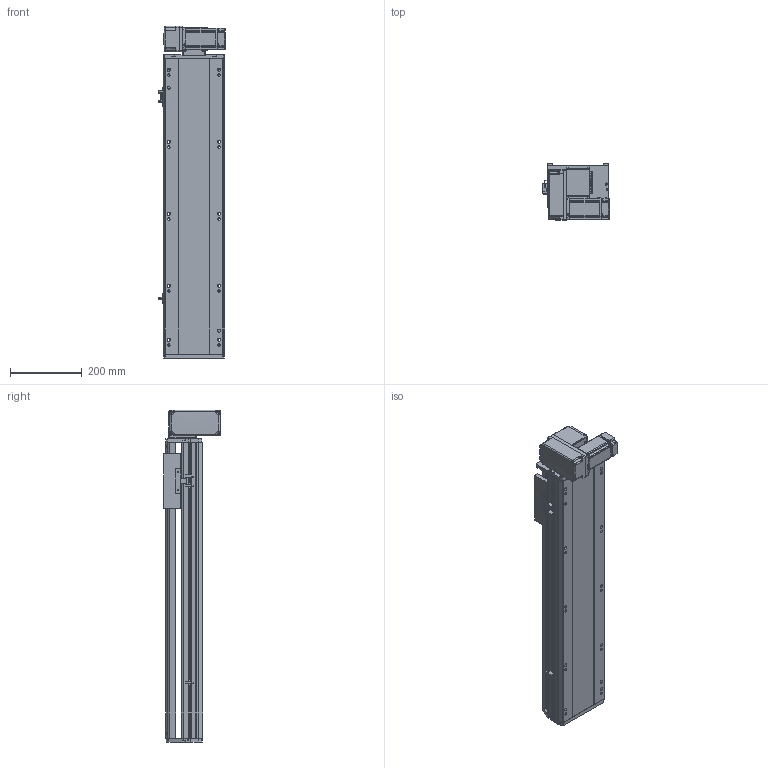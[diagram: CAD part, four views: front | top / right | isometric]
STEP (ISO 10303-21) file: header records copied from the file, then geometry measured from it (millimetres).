
FILE_DESCRIPTION (( 'STEP AP214' ), '1' );
FILE_NAME ('RTB17S-XX-550-LM-M40-C4.STEP', '2025-12-11T06:23:11', ( '' ), ( '' ), 'SwSTEP 2.0', 'SolidWorks 2018', '' );
FILE_SCHEMA (( 'AUTOMOTIVE_DESIGN' ));
Length unit declared in the file: millimetre
Products named in the file (14): RTB17-R-011菁釱^RTB17S-XX-XX-LM-M40-C4; RTB14-L-017P^RTB17S-LM-々湍釱蚾饜-400W_RTB17S-XX-XX-LM-M40-C4; RTB14-L-008-M20--萇儂啣^RTB17S-LM-々湍釱蚾饜-400W_RTB17S-XX-XX-LM-M40-C4; RTB17S-L-001耜醱啣^RTB17S-XX-XX-LM-M40-C4; RTB17S-LM-々湍釱蚾饜-400W^RTB17S-XX-XX-LM-M40-C4; RTB14-L-018P^RTB17S-LM-々湍釱蚾饜-400W_RTB17S-XX-XX-LM-M40-C4; RTB14-L-005P--轴承塑胶压盖^RTB17S-LM-皮带座装配-400W_RTB17S-XX-XX-LM-M40-C4; OMRON EE-SX672 传感器^RTB17S-XX-XX-LM-M40-C4; RMP17S-L-014-T20--々湍釱^RTB17S-LM-々湍釱蚾饜-400W_RTB17S-XX-XX-LM-M40-C4; RTB17S-L-004佪裝蹟譫蟀諉釱^RTB17S-XX-XX-LM-M40-C4; 400W侜督萇儂^RTB17S-XX-XX-LM-M40-C4; RTB17S-XX-550-LM-M40-C4; RTH13-BL-012覜茼え俋离^RTB17S-XX-XX-LM-M40-C4; RTB17S-L-007奻裔^RTB17S-XX-XX-LM-M40-C4
Assembly tree (16 placements, depth 3):
  RTB17S-XX-550-LM-M40-C4
    RTB17-R-011菁釱^RTB17S-XX-XX-LM-M40-C4
    RTB17S-L-007奻裔^RTB17S-XX-XX-LM-M40-C4
    OMRON EE-SX672 传感器^RTB17S-XX-XX-LM-M40-C4  x3
    RTH13-BL-012覜茼え俋离^RTB17S-XX-XX-LM-M40-C4
    RTB17S-L-001耜醱啣^RTB17S-XX-XX-LM-M40-C4
    400W侜督萇儂^RTB17S-XX-XX-LM-M40-C4
    RTB17S-L-004佪裝蹟譫蟀諉釱^RTB17S-XX-XX-LM-M40-C4
    RTB17S-LM-々湍釱蚾饜-400W^RTB17S-XX-XX-LM-M40-C4
      RMP17S-L-014-T20--々湍釱^RTB17S-LM-々湍釱蚾饜-400W_RTB17S-XX-XX-LM-M40-C4
      RTB14-L-005P--轴承塑胶压盖^RTB17S-LM-皮带座装配-400W_RTB17S-XX-XX-LM-M40-C4
      RTB14-L-008-M20--萇儂啣^RTB17S-LM-々湍釱蚾饜-400W_RTB17S-XX-XX-LM-M40-C4
      RTB14-L-017P^RTB17S-LM-々湍釱蚾饜-400W_RTB17S-XX-XX-LM-M40-C4  x2
      RTB14-L-018P^RTB17S-LM-々湍釱蚾饜-400W_RTB17S-XX-XX-LM-M40-C4
Bounding box: 186 x 156.5 x 922.5 mm (x, y, z)
Volume: 8704659.7 mm3; surface area: 1097883.7 mm2
Topology: 15 solids, 15 shells, 2173 faces, 5979 edges, 3897 vertices
Faces by surface type: plane 1064, cylinder 661, bspline 301, cone 139, torus 8
Entity records: 61097 total; most frequent: CARTESIAN_POINT 16984, ORIENTED_EDGE 8802, DIRECTION 8216, EDGE_CURVE 4401, VERTEX_POINT 2885, AXIS2_PLACEMENT_3D 2815, LINE 2586, VECTOR 2586
